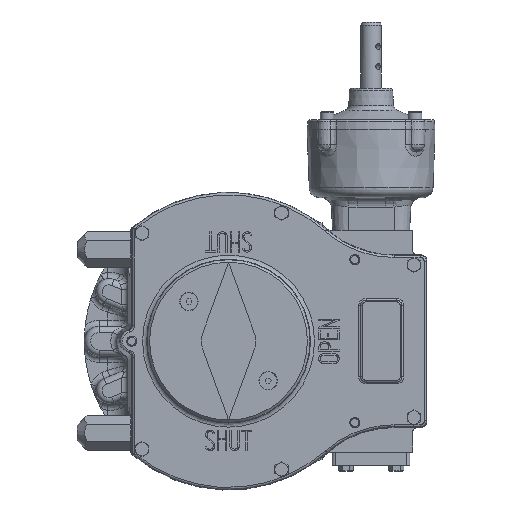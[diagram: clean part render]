
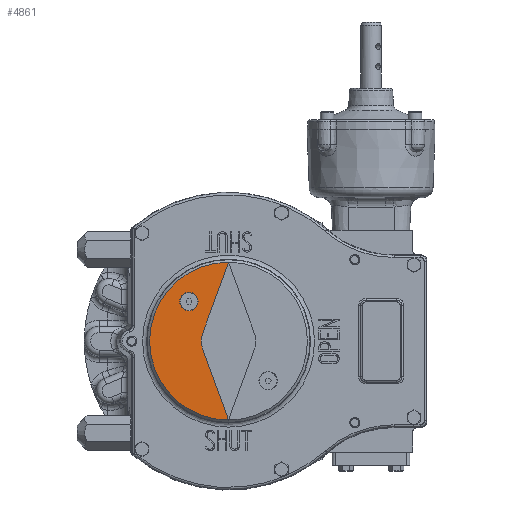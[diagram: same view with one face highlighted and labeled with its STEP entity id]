
A CAD part, top view. The second image highlights one B-rep face of the part: STEP entity #4861.
In plain terms, the highlighted planar face has unit normal (0, 0, 1).
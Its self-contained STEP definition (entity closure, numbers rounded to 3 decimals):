
#4861 = ADVANCED_FACE( '', ( #11071, #11072 ), #11073, .T. );
#11071 = FACE_BOUND( '', #33812, .T. );
#11072 = FACE_OUTER_BOUND( '', #33813, .T. );
#11073 = PLANE( '', #33814 );
#33812 = EDGE_LOOP( '', ( #63257 ) );
#33813 = EDGE_LOOP( '', ( #63258, #63259, #63260, #63261 ) );
#33814 = AXIS2_PLACEMENT_3D( '', #63262, #63263, #63264 );
#63257 = ORIENTED_EDGE( '', *, *, #78102, .T. );
#63258 = ORIENTED_EDGE( '', *, *, #77292, .T. );
#63259 = ORIENTED_EDGE( '', *, *, #75225, .T. );
#63260 = ORIENTED_EDGE( '', *, *, #73834, .T. );
#63261 = ORIENTED_EDGE( '', *, *, #78589, .F. );
#63262 = CARTESIAN_POINT( '', ( 77.5, 0., 116. ) );
#63263 = DIRECTION( '', ( 0., 0., 1. ) );
#63264 = DIRECTION( '', ( 0., 1., 0. ) );
#73834 = EDGE_CURVE( '', #82364, #82365, #82366, .T. );
#75225 = EDGE_CURVE( '', #84711, #82364, #84712, .F. );
#77292 = EDGE_CURVE( '', #87684, #84711, #87949, .T. );
#78102 = EDGE_CURVE( '', #89077, #89077, #89078, .T. );
#78589 = EDGE_CURVE( '', #87684, #82365, #89729, .T. );
#82364 = VERTEX_POINT( '', #96726 );
#82365 = VERTEX_POINT( '', #96727 );
#82366 = LINE( '', #96728, #96729 );
#84711 = VERTEX_POINT( '', #103309 );
#84712 = CIRCLE( '', #103310, 20. );
#87684 = VERTEX_POINT( '', #111329 );
#87949 = LINE( '', #112359, #112360 );
#89077 = VERTEX_POINT( '', #116010 );
#89078 = CIRCLE( '', #116011, 9. );
#89729 = CIRCLE( '', #118276, 77.5 );
#96726 = CARTESIAN_POINT( '', ( -25.718, 6.84, 116. ) );
#96727 = CARTESIAN_POINT( '', ( 0., 77.5, 116. ) );
#96728 = CARTESIAN_POINT( '', ( -28.208, 0., 116. ) );
#96729 = VECTOR( '', #128003, 1000. );
#103309 = CARTESIAN_POINT( '', ( -25.718, -6.84, 116. ) );
#103310 = AXIS2_PLACEMENT_3D( '', #129627, #129628, #129629 );
#111329 = CARTESIAN_POINT( '', ( 0., -77.5, 116. ) );
#112359 = CARTESIAN_POINT( '', ( 0., -77.5, 116. ) );
#112360 = VECTOR( '', #132341, 1000. );
#116010 = CARTESIAN_POINT( '', ( -47.891, 38.891, 116. ) );
#116011 = AXIS2_PLACEMENT_3D( '', #133199, #133200, #133201 );
#118276 = AXIS2_PLACEMENT_3D( '', #133685, #133686, #133687 );
#128003 = DIRECTION( '', ( 0.342, 0.94, 0. ) );
#129627 = CARTESIAN_POINT( '', ( -6.924, 0., 116. ) );
#129628 = DIRECTION( '', ( 0., 0., 1. ) );
#129629 = DIRECTION( '', ( 0., 1., 0. ) );
#132341 = DIRECTION( '', ( -0.342, 0.94, 0. ) );
#133199 = CARTESIAN_POINT( '', ( -38.891, 38.891, 116. ) );
#133200 = DIRECTION( '', ( 0., 0., -1. ) );
#133201 = DIRECTION( '', ( -1., 0., 0. ) );
#133685 = CARTESIAN_POINT( '', ( 0., 0., 116. ) );
#133686 = DIRECTION( '', ( 0., 0., -1. ) );
#133687 = DIRECTION( '', ( 0., -1., 0. ) );
